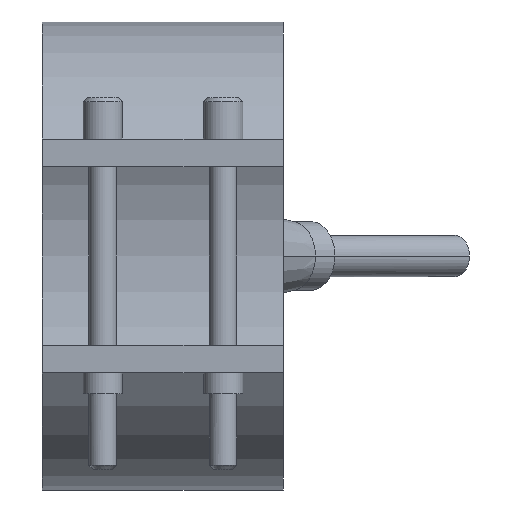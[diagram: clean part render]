
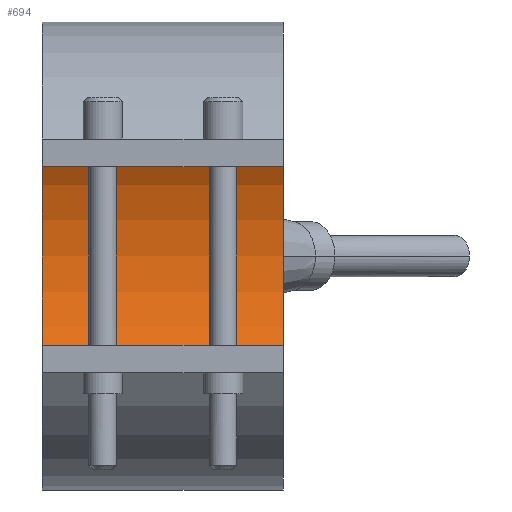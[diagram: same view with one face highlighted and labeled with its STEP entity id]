
A CAD part, front view. The second image highlights one B-rep face of the part: STEP entity #694.
In plain terms, the highlighted cylindrical face has radius 30 mm (diameter 60 mm), a partial arc.
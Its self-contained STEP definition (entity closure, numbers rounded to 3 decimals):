
#364=CARTESIAN_POINT('Vertex',(17.5,0.,30.)) ;
#369=CARTESIAN_POINT('Axis2P3D Location',(17.5,0.,0.)) ;
#373=CARTESIAN_POINT('Vertex',(17.5,0.,-30.)) ;
#480=CARTESIAN_POINT('Vertex',(-17.5,0.,-30.)) ;
#483=CARTESIAN_POINT('Axis2P3D Location',(-17.5,0.,0.)) ;
#487=CARTESIAN_POINT('Vertex',(-17.5,0.,30.)) ;
#666=CARTESIAN_POINT('Line Origine',(17.5,0.,30.)) ;
#678=CARTESIAN_POINT('Axis2P3D Location',(17.5,0.,0.)) ;
#683=CARTESIAN_POINT('Line Origine',(17.5,0.,-30.)) ;
#370=DIRECTION('Axis2P3D Direction',(1.,0.,0.)) ;
#484=DIRECTION('Axis2P3D Direction',(1.,0.,0.)) ;
#667=DIRECTION('Vector Direction',(1.,0.,0.)) ;
#679=DIRECTION('Axis2P3D Direction',(1.,0.,-0.)) ;
#680=DIRECTION('Axis2P3D XDirection',(0.,0.,-1.)) ;
#684=DIRECTION('Vector Direction',(1.,0.,0.)) ;
#371=AXIS2_PLACEMENT_3D('Circle Axis2P3D',#369,#370,$) ;
#485=AXIS2_PLACEMENT_3D('Circle Axis2P3D',#483,#484,$) ;
#681=AXIS2_PLACEMENT_3D('Cylinder Axis2P3D',#678,#679,#680) ;
#689=ORIENTED_EDGE('',*,*,#375,.T.) ;
#690=ORIENTED_EDGE('',*,*,#670,.T.) ;
#691=ORIENTED_EDGE('',*,*,#489,.F.) ;
#692=ORIENTED_EDGE('',*,*,#687,.T.) ;
#668=VECTOR('Line Direction',#667,1.) ;
#685=VECTOR('Line Direction',#684,1.) ;
#694=ADVANCED_FACE('29060035',(#693),#682,.F.) ;
#372=CIRCLE('generated circle',#371,30.) ;
#486=CIRCLE('generated circle',#485,30.) ;
#682=CYLINDRICAL_SURFACE('generated cylinder',#681,30.) ;
#375=EDGE_CURVE('',#374,#365,#372,.T.) ;
#489=EDGE_CURVE('',#481,#488,#486,.T.) ;
#670=EDGE_CURVE('',#365,#488,#669,.F.) ;
#687=EDGE_CURVE('',#481,#374,#686,.T.) ;
#688=EDGE_LOOP('',(#689,#690,#691,#692)) ;
#693=FACE_OUTER_BOUND('',#688,.T.) ;
#669=LINE('Line',#666,#668) ;
#686=LINE('Line',#683,#685) ;
#365=VERTEX_POINT('',#364) ;
#374=VERTEX_POINT('',#373) ;
#481=VERTEX_POINT('',#480) ;
#488=VERTEX_POINT('',#487) ;
